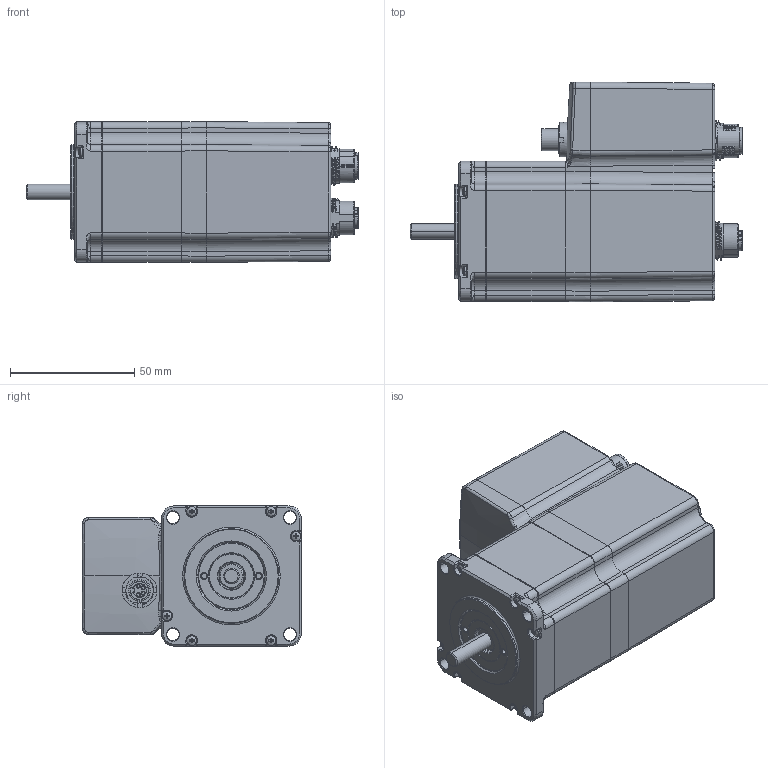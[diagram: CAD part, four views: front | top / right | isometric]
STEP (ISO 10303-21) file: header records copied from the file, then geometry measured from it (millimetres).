
FILE_DESCRIPTION((''),'2;1');
FILE_NAME('STEPPERASSY_ASM','2022-11-04T22:02:47',('Administrator'),(''),'CREO PARAMETRIC BY PTC INC, 2022014','CREO PARAMETRIC BY PTC INC, 2022014','');
FILE_SCHEMA(('AUTOMOTIVE_DESIGN { 1 0 10303 214 1 1 1 1 }'));
Products named in the file (9): FRONT_CAP_1; STATOR; AXIAL_CON; SHAFT_1; LOCK_NUT_1; SEALING_1; STO; FAST_S; STEPPERASSY_ASM
Assembly tree (13 placements, depth 2):
  STEPPERASSY_ASM
    FRONT_CAP_1
    STATOR
    AXIAL_CON
    SHAFT_1
    LOCK_NUT_1
    SEALING_1
    STO
    FAST_S  x6
Bounding box: 133.7 x 88.42 x 56.67 mm (x, y, z)
Volume: 384779.6 mm3; surface area: 57939.9 mm2
Topology: 14 solids, 15 shells, 2205 faces, 5543 edges, 3446 vertices
Faces by surface type: plane 840, cylinder 623, bspline 281, cone 234, torus 190, sphere 35, extrusion 2
Entity records: 112070 total; most frequent: CARTESIAN_POINT 39040, ORIENTED_EDGE 9980, DIRECTION 9450, PRESENTATION_STYLE_ASSIGNMENT 5505, EDGE_CURVE 4992, STYLED_ITEM 4724, CURVE_STYLE 4498, AXIS2_PLACEMENT_3D 3528
